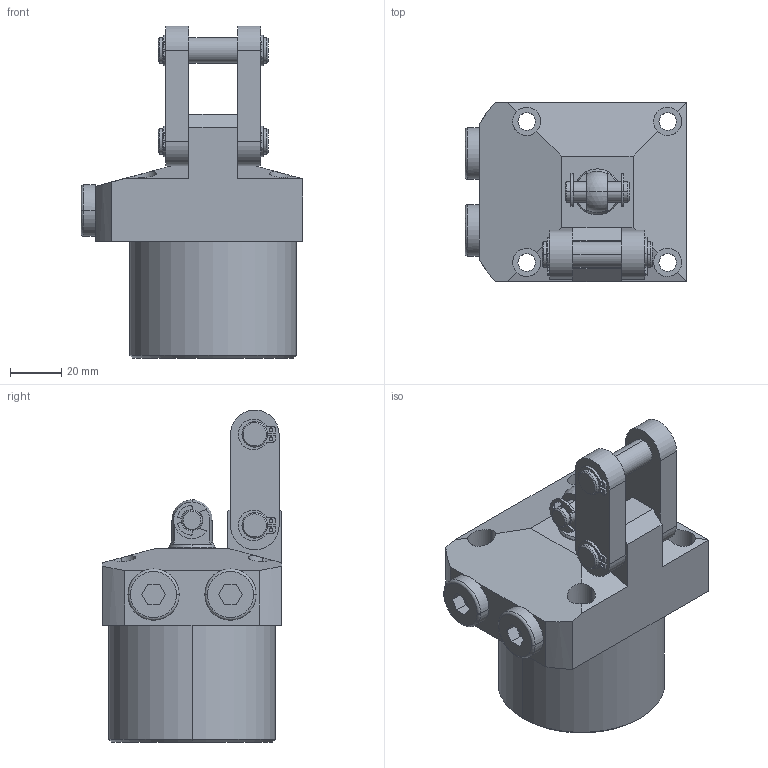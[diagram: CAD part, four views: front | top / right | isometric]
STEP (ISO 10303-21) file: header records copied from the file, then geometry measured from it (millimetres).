
FILE_DESCRIPTION (( 'STEP AP203' ), '1' );
FILE_NAME ('4171 521 R.STEP', '2017-11-25T06:08:07', ( '' ), ( '' ), 'SwSTEP 2.0', 'SolidWorks 2015', '' );
FILE_SCHEMA (( 'CONFIG_CONTROL_DESIGN' ));
Length unit declared in the file: millimetre
Products named in the file (8): PR; LINK; PIN 1; PIN 2; (type e)_is_IS 3075(Part3) - 7; (normal) external_is_IS 3075 NE- 10; 4171 521 R; BODY_4171 521 R
Assembly tree (13 placements, depth 2):
  4171 521 R
    BODY_4171 521 R
    PR
    LINK  x2
    PIN 1
    PIN 2  x2
    (type e)_is_IS 3075(Part3) - 7  x2
    (normal) external_is_IS 3075 NE- 10  x4
Bounding box: 86.5 x 70 x 129.5 mm (x, y, z)
Volume: 329659.9 mm3; surface area: 50337 mm2
Topology: 13 solids, 13 shells, 347 faces, 861 edges, 553 vertices
Faces by surface type: cylinder 178, plane 123, cone 40, torus 4, sphere 2
Entity records: 7741 total; most frequent: CARTESIAN_POINT 1305, DIRECTION 1229, ORIENTED_EDGE 1078, EDGE_CURVE 539, AXIS2_PLACEMENT_3D 479, VERTEX_POINT 343, VECTOR 271, LINE 271
